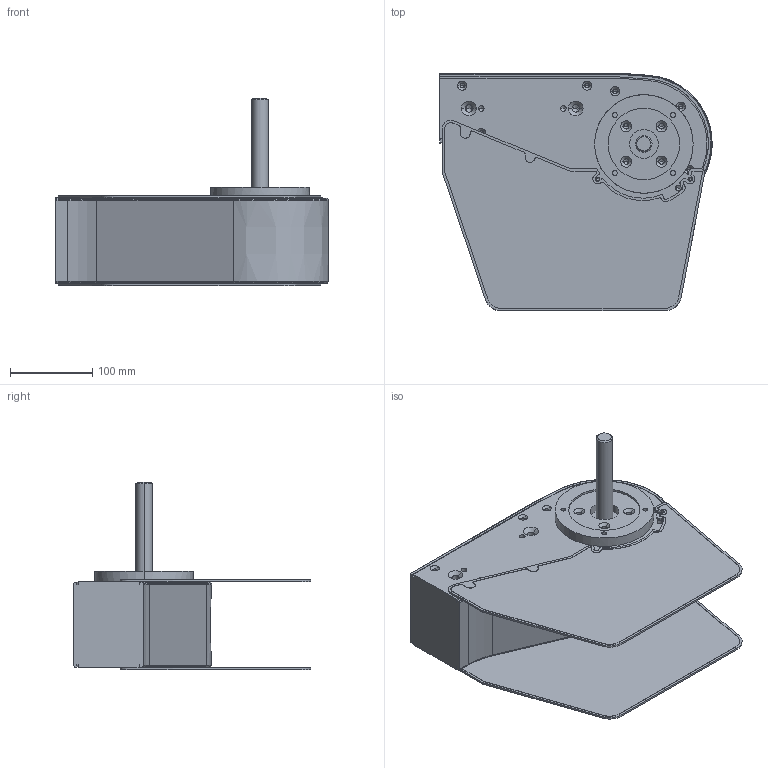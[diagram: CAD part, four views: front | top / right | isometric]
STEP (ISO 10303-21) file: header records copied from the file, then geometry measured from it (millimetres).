
FILE_DESCRIPTION (( 'STEP AP214' ), '1' );
FILE_NAME ('FCDD 105 0R.step', '2017-04-07T11:06:08', ( '' ), ( '' ), 'SwSTEP 2.0', 'SolidWorks 2016', '' );
FILE_SCHEMA (( 'AUTOMOTIVE_DESIGN' ));
Length unit declared in the file: millimetre
Products named in the file (1): FCDD 105 0R
Bounding box: 331.55 x 289.34 x 228.1 mm (x, y, z)
Volume: 4651055.9 mm3; surface area: 409596.1 mm2
Topology: 3 solids, 3 shells, 597 faces, 1575 edges, 960 vertices
Faces by surface type: cylinder 291, plane 153, cone 140, bspline 9, torus 4
Entity records: 21865 total; most frequent: CARTESIAN_POINT 4064, DIRECTION 3289, ORIENTED_EDGE 2998, EDGE_CURVE 1499, AXIS2_PLACEMENT_3D 1236, VERTEX_POINT 960, VECTOR 817, LINE 817
